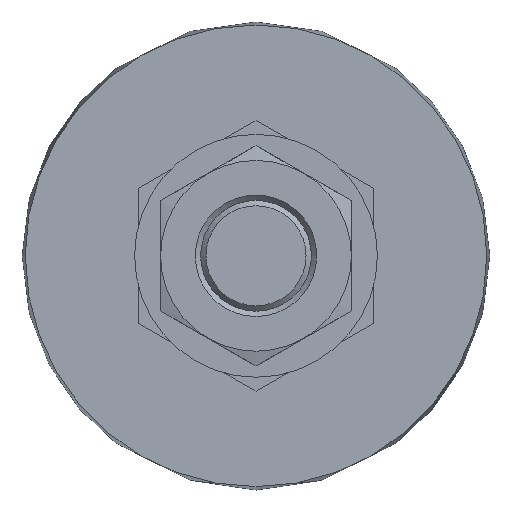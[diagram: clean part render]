
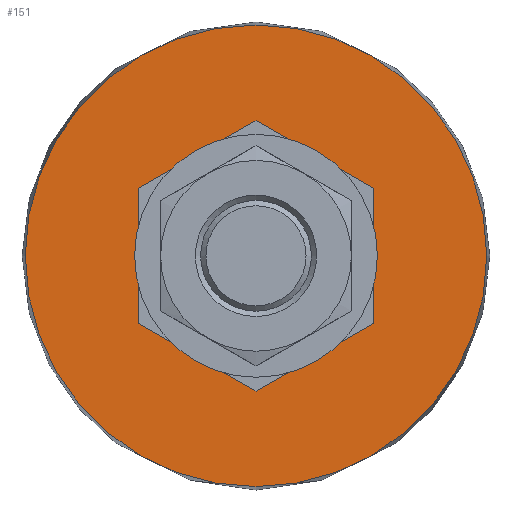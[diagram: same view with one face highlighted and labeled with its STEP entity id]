
A CAD part, front view. The second image highlights one B-rep face of the part: STEP entity #151.
In plain terms, the highlighted planar face has unit normal (0, -1, 0).
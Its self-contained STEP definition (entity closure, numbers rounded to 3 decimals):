
#151 = ADVANCED_FACE( '', ( #220, #221 ), #222, .F. );
#220 = FACE_BOUND( '', #346, .T. );
#221 = FACE_OUTER_BOUND( '', #347, .T. );
#222 = PLANE( '', #348 );
#346 = EDGE_LOOP( '', ( #513, #514, #515, #516, #517, #518 ) );
#347 = EDGE_LOOP( '', ( #519 ) );
#348 = AXIS2_PLACEMENT_3D( '', #520, #521, #522 );
#513 = ORIENTED_EDGE( '', *, *, #687, .T. );
#514 = ORIENTED_EDGE( '', *, *, #690, .T. );
#515 = ORIENTED_EDGE( '', *, *, #693, .T. );
#516 = ORIENTED_EDGE( '', *, *, #676, .T. );
#517 = ORIENTED_EDGE( '', *, *, #681, .T. );
#518 = ORIENTED_EDGE( '', *, *, #684, .T. );
#519 = ORIENTED_EDGE( '', *, *, #704, .T. );
#520 = CARTESIAN_POINT( '', ( 26.608, 5., 0. ) );
#521 = DIRECTION( '', ( 0., 1., 0. ) );
#522 = DIRECTION( '', ( 0., 0., 1. ) );
#676 = EDGE_CURVE( '', #768, #769, #770, .T. );
#681 = EDGE_CURVE( '', #769, #778, #779, .T. );
#684 = EDGE_CURVE( '', #778, #783, #784, .T. );
#687 = EDGE_CURVE( '', #783, #788, #789, .T. );
#690 = EDGE_CURVE( '', #788, #793, #794, .T. );
#693 = EDGE_CURVE( '', #793, #768, #798, .T. );
#704 = EDGE_CURVE( '', #818, #818, #819, .T. );
#768 = VERTEX_POINT( '', #926 );
#769 = VERTEX_POINT( '', #927 );
#770 = LINE( '', #928, #929 );
#778 = VERTEX_POINT( '', #940 );
#779 = LINE( '', #941, #942 );
#783 = VERTEX_POINT( '', #948 );
#784 = LINE( '', #949, #950 );
#788 = VERTEX_POINT( '', #956 );
#789 = LINE( '', #957, #958 );
#793 = VERTEX_POINT( '', #964 );
#794 = LINE( '', #965, #966 );
#798 = LINE( '', #972, #973 );
#818 = VERTEX_POINT( '', #1000 );
#819 = CIRCLE( '', #1001, 26.608 );
#926 = CARTESIAN_POINT( '', ( -13.5, 5., -7.794 ) );
#927 = CARTESIAN_POINT( '', ( -13.5, 5., 7.794 ) );
#928 = CARTESIAN_POINT( '', ( -13.5, 5., -7.794 ) );
#929 = VECTOR( '', #1136, 1000. );
#940 = CARTESIAN_POINT( '', ( 0., 5., 15.588 ) );
#941 = CARTESIAN_POINT( '', ( -13.5, 5., 7.794 ) );
#942 = VECTOR( '', #1143, 1000. );
#948 = CARTESIAN_POINT( '', ( 13.5, 5., 7.794 ) );
#949 = CARTESIAN_POINT( '', ( 0., 5., 15.588 ) );
#950 = VECTOR( '', #1146, 1000. );
#956 = CARTESIAN_POINT( '', ( 13.5, 5., -7.794 ) );
#957 = CARTESIAN_POINT( '', ( 13.5, 5., 7.794 ) );
#958 = VECTOR( '', #1149, 1000. );
#964 = CARTESIAN_POINT( '', ( 0., 5., -15.588 ) );
#965 = CARTESIAN_POINT( '', ( 13.5, 5., -7.794 ) );
#966 = VECTOR( '', #1152, 1000. );
#972 = CARTESIAN_POINT( '', ( 0., 5., -15.588 ) );
#973 = VECTOR( '', #1155, 1000. );
#1000 = CARTESIAN_POINT( '', ( 0., 5., -26.608 ) );
#1001 = AXIS2_PLACEMENT_3D( '', #1172, #1173, #1174 );
#1136 = DIRECTION( '', ( 0., 0., 1. ) );
#1143 = DIRECTION( '', ( 0.866, 0., 0.5 ) );
#1146 = DIRECTION( '', ( 0.866, 0., -0.5 ) );
#1149 = DIRECTION( '', ( 0., 0., -1. ) );
#1152 = DIRECTION( '', ( -0.866, 0., -0.5 ) );
#1155 = DIRECTION( '', ( -0.866, 0., 0.5 ) );
#1172 = CARTESIAN_POINT( '', ( 0., 5., 0. ) );
#1173 = DIRECTION( '', ( 0., -1., 0. ) );
#1174 = DIRECTION( '', ( 0., 0., -1. ) );
